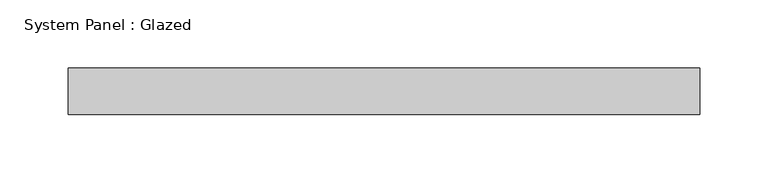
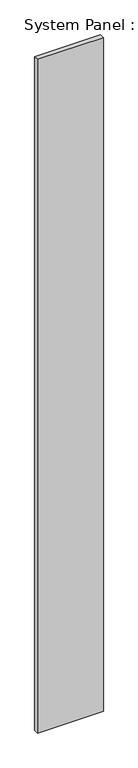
"""IFC4 building model written with IfcOpenShell, lengths in millimetres: plate geometry, System Panel : Glazed."""

from ifc_helpers import new_model, si_unit, origin, origin_with_axes, place, context, project, spatial, polyline, outline, extrude, source, transform, mapped, element, save


def system_panel_glazed_cafef8f0(model_context):
    return source(origin(), model_context, "Body", "SweptSolid", [
        extrude(outline(polyline([(231.1, -17.0), (-231.1, -17.0), (-231.1, 17.0), (231.1, 17.0), (231.1, -17.0)])), origin_with_axes(), (0.0, 0.0, 1.0), 5000.0),
    ])


if __name__ == "__main__":
    model = new_model("IFC4")
    model_context = context("Model", 3, world=origin())
    ifc_project = project(units=[si_unit("LENGTHUNIT", "METRE", prefix="MILLI")], contexts=[model_context])
    site = spatial("IfcSite", under=ifc_project)
    building = spatial("IfcBuilding", under=site)
    placement = place(None, origin())
    system_panel_glazed_shape = system_panel_glazed_cafef8f0(model_context)
    element("IfcPlate", 1, ObjectType="System Panel : Glazed", at=placement, inside=building, context=model_context, shape_type="MappedRepresentation", body=[
        mapped(system_panel_glazed_shape, transform((0.0, 0.0, 0.0), x_axis=(1.0, 0.0, 0.0), y_axis=(0.0, 1.0, 0.0), z_axis=(0.0, 0.0, 1.0))),
    ])
    save(model, "model.ifc")
